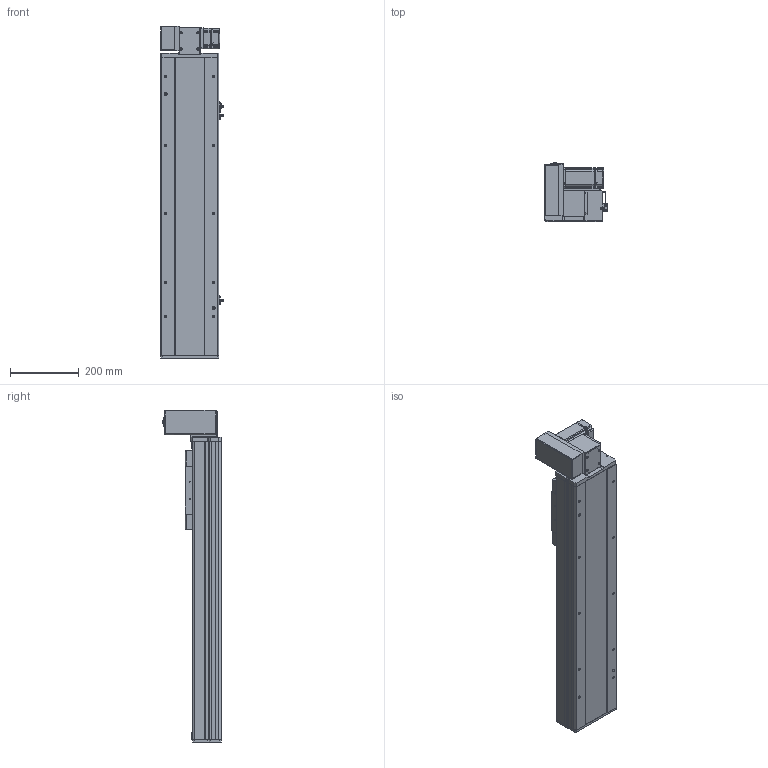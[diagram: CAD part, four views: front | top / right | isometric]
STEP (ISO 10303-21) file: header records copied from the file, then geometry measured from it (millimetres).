
FILE_DESCRIPTION (( 'STEP AP214' ), '1' );
FILE_NAME ('TPE17-L40-550-LU-T40-C4.STEP', '2023-04-12T03:33:18', ( '' ), ( '' ), 'SwSTEP 2.0', 'SolidWorks 2020', '' );
FILE_SCHEMA (( 'AUTOMOTIVE_DESIGN' ));
Length unit declared in the file: millimetre
Products named in the file (12): 葩璃 TPE17-L-002 耜裔ZTMZ-135-04^TPE17-L40-LU-T40-C4; 葩璃 詩湍110^TPE17-L40-LU-T40-C4; 葩璃 TPE17 賑雄殤^TPE17-L40-LU-T40-C4; 葩璃 TPT14-L-009 萇儂啣^TPE17-L40-LU-T40-C4_400W; 葩璃 pm-t65-672^TPE17-L40-LU-T40-C4; 葩璃 TPE17-L-001 菁釱MZ-170-01^TPE17-L40-LU-T40-C4; TPE17-L40-550-LU-T40-C4; hex nuts, style 1-grades ab gb_GB_FASTENER_NUT_SNAB1 M3-N; 葩璃 TPE17-L-007 々湍釱MZ-169x88^TPE17-L40-LU-T40-C4_TPE17; 葩璃 侂狟400W^TPE17-L40-LU-T40-C4; hexagon head bolts-full thread gb_GB_FASTENER_BOLT_STBAB A M5X16-N; hexagon socket head cap screws gb_GB_FASTENER_SCREWS_HSHCS M3X6-N
Assembly tree (24 placements, depth 2):
  TPE17-L40-550-LU-T40-C4
    葩璃 TPE17-L-001 菁釱MZ-170-01^TPE17-L40-LU-T40-C4
    葩璃 TPE17-L-002 耜裔ZTMZ-135-04^TPE17-L40-LU-T40-C4  x2
    葩璃 詩湍110^TPE17-L40-LU-T40-C4
    葩璃 TPE17-L-007 々湍釱MZ-169x88^TPE17-L40-LU-T40-C4_TPE17
    葩璃 TPT14-L-009 萇儂啣^TPE17-L40-LU-T40-C4_400W
    葩璃 TPE17 賑雄殤^TPE17-L40-LU-T40-C4
    葩璃 pm-t65-672^TPE17-L40-LU-T40-C4  x3
    葩璃 侂狟400W^TPE17-L40-LU-T40-C4
    hexagon socket head cap screws gb_GB_FASTENER_SCREWS_HSHCS M3X6-N  x6
    hex nuts, style 1-grades ab gb_GB_FASTENER_NUT_SNAB1 M3-N  x6
    hexagon head bolts-full thread gb_GB_FASTENER_BOLT_STBAB A M5X16-N
Bounding box: 183.7 x 173.15 x 969 mm (x, y, z)
Volume: 8887126.9 mm3; surface area: 1297091.4 mm2
Topology: 35 solids, 35 shells, 1682 faces, 4287 edges, 2708 vertices
Faces by surface type: plane 981, cylinder 457, cone 198, bspline 34, torus 12
Entity records: 39347 total; most frequent: CARTESIAN_POINT 7752, DIRECTION 6312, ORIENTED_EDGE 6118, EDGE_CURVE 3059, AXIS2_PLACEMENT_3D 2141, LINE 2030, VECTOR 2030, VERTEX_POINT 1971
